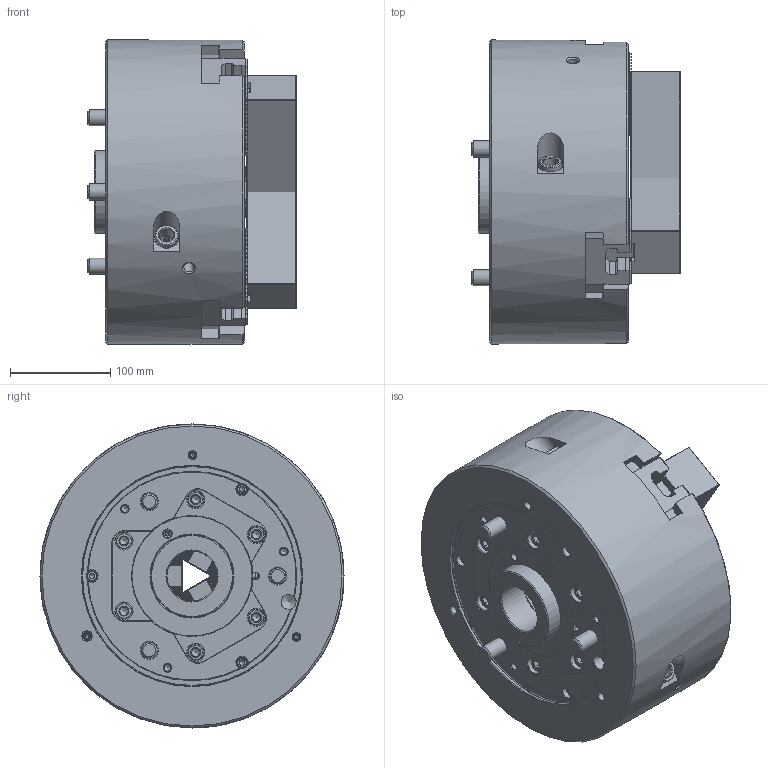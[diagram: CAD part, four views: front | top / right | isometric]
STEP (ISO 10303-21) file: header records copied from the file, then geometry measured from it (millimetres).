
FILE_DESCRIPTION (( 'STEP AP214' ), '1' );
FILE_NAME ('DT1_BL-212_OUTSIDE_VIEW_OC.STEP', '2024-05-08T02:05:42', ( '' ), ( '' ), 'SwSTEP 2.0', 'SolidWorks 2022', '' );
FILE_SCHEMA (( 'AUTOMOTIVE_DESIGN' ));
Length unit declared in the file: millimetre
Products named in the file (9): BASE^DT1_BL-212_ﾃﾞﾌｫﾙﾄ; DT1_B-212_DRAWNUT^DT1_BL-212_ﾃﾞﾌｫﾙﾄ; DT1_B-212_M16x40^DT1_BL-212_ﾃﾞﾌｫﾙﾄ; DT1_B-212_TNUT^DT1_BL-212_ﾃﾞﾌｫﾙﾄ; DT1_BL-212_OUTSIDE_VIEW_OC; DT1_B-212_SOFTJAW^DT1_BL-212_ﾃﾞﾌｫﾙﾄ; DT1_B-212_M16x130^DT1_BL-212_ﾃﾞﾌｫﾙﾄ; DT1_B-212_COVER^DT1_BL-212_ﾃﾞﾌｫﾙﾄ; DT1_B-212_M5x10^DT1_BL-212_ﾃﾞﾌｫﾙﾄ
Assembly tree (21 placements, depth 2):
  DT1_BL-212_OUTSIDE_VIEW_OC
    DT1_B-212_DRAWNUT^DT1_BL-212_ﾃﾞﾌｫﾙﾄ
    DT1_B-212_COVER^DT1_BL-212_ﾃﾞﾌｫﾙﾄ
    DT1_B-212_TNUT^DT1_BL-212_ﾃﾞﾌｫﾙﾄ  x3
    DT1_B-212_SOFTJAW^DT1_BL-212_ﾃﾞﾌｫﾙﾄ  x3
    BASE^DT1_BL-212_ﾃﾞﾌｫﾙﾄ
    DT1_B-212_M16x40^DT1_BL-212_ﾃﾞﾌｫﾙﾄ  x6
    DT1_B-212_M16x130^DT1_BL-212_ﾃﾞﾌｫﾙﾄ  x3
    DT1_B-212_M5x10^DT1_BL-212_ﾃﾞﾌｫﾙﾄ  x3
Bounding box: 208 x 304 x 304 mm (x, y, z)
Volume: 9990267.9 mm3; surface area: 733750 mm2
Topology: 21 solids, 33 shells, 4081 faces, 11498 edges, 7563 vertices
Faces by surface type: plane 3362, cone 288, cylinder 278, bspline 121, torus 29, sphere 3
Full cylindrical faces by diameter (mm): 2 x3, 4.2 x3, 5 x5, 5.5 x3, 6 x1, 6.8 x9, 8 x1, 8.6 x3, 9.5 x3, 10 x9, 10.2 x2, 10.22 x3, 11 x9, 14 x6, 15 x4, 16 x9, 16.27 x6, 17 x15, 23.5 x3, 24.1 x3, 24.33 x9, 25 x9, 50 x1, 63 x1, 67 x3, 76 x1, 83 x2, 83.25 x1, 90 x2, 120 x1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
Entity records: 98091 total; most frequent: CARTESIAN_POINT 25395, ORIENTED_EDGE 15598, DIRECTION 13391, EDGE_CURVE 7799, LINE 6335, VECTOR 6335, VERTEX_POINT 5255, AXIS2_PLACEMENT_3D 3528
